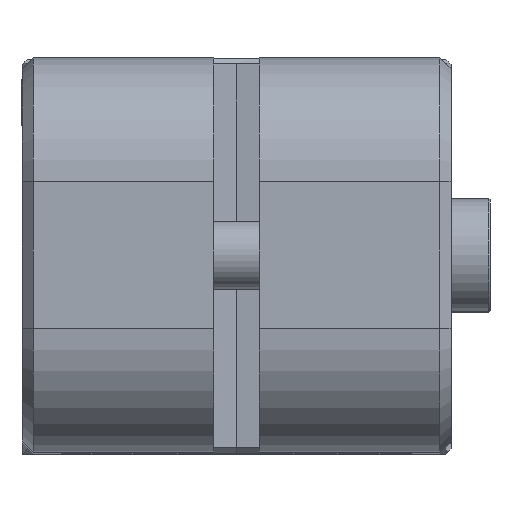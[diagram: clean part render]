
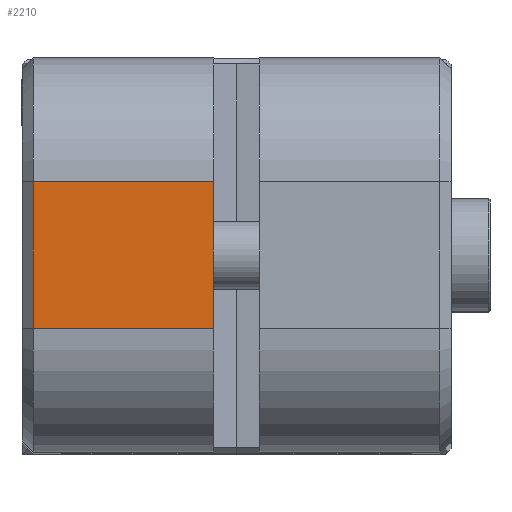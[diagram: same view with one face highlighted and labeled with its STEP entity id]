
A CAD part, top view. The second image highlights one B-rep face of the part: STEP entity #2210.
In plain terms, the highlighted planar face has unit normal (0, 0, 1) as drawn and (1, 0, 0) by its records, which use the part's own axes.
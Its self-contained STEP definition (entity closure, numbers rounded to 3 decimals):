
#484 = CARTESIAN_POINT ( 'NONE',  ( 71.918, 8.764, -37.971 ) ) ;
#570 = AXIS2_PLACEMENT_3D ( 'NONE', #1217, #4479, #8642 ) ;
#1217 = CARTESIAN_POINT ( 'NONE',  ( 71.918, 8.764, -37.971 ) ) ;
#1311 = CARTESIAN_POINT ( 'NONE',  ( 71.918, 16.764, -37.971 ) ) ;
#1511 = CARTESIAN_POINT ( 'NONE',  ( 71.918, 8.764, -31.471 ) ) ;
#1586 = VERTEX_POINT ( 'NONE', #3878 ) ;
#2035 = DIRECTION ( 'NONE',  ( 0., 0., 1. ) ) ;
#2210 = ADVANCED_FACE ( 'NONE', ( #10504 ), #2870, .T. ) ;
#2856 = ORIENTED_EDGE ( 'NONE', *, *, #7333, .T. ) ;
#2870 = PLANE ( 'NONE',  #570 ) ;
#3052 = EDGE_CURVE ( 'NONE', #9318, #7766, #4837, .T. ) ;
#3235 = ORIENTED_EDGE ( 'NONE', *, *, #6973, .T. ) ;
#3878 = CARTESIAN_POINT ( 'NONE',  ( 71.918, 24.764, -24.971 ) ) ;
#4009 = VECTOR ( 'NONE', #6062, 1000. ) ;
#4479 = DIRECTION ( 'NONE',  ( 1., 0., 0. ) ) ;
#4837 = LINE ( 'NONE', #1311, #8840 ) ;
#4875 = DIRECTION ( 'NONE',  ( 0., 0., -1. ) ) ;
#5048 = EDGE_LOOP ( 'NONE', ( #8899, #8583, #3235, #2856 ) ) ;
#6062 = DIRECTION ( 'NONE',  ( 0., -1., 0. ) ) ;
#6253 = VECTOR ( 'NONE', #4875, 1000. ) ;
#6802 = EDGE_CURVE ( 'NONE', #7766, #1586, #9715, .T. ) ;
#6845 = VERTEX_POINT ( 'NONE', #8328 ) ;
#6973 = EDGE_CURVE ( 'NONE', #1586, #6845, #9385, .T. ) ;
#7180 = DIRECTION ( 'NONE',  ( 0., 1., 0. ) ) ;
#7333 = EDGE_CURVE ( 'NONE', #6845, #9318, #9094, .T. ) ;
#7564 = VECTOR ( 'NONE', #2035, 1000. ) ;
#7766 = VERTEX_POINT ( 'NONE', #10185 ) ;
#8328 = CARTESIAN_POINT ( 'NONE',  ( 71.918, 8.764, -24.971 ) ) ;
#8583 = ORIENTED_EDGE ( 'NONE', *, *, #6802, .T. ) ;
#8642 = DIRECTION ( 'NONE',  ( 0., 1., 0. ) ) ;
#8662 = CARTESIAN_POINT ( 'NONE',  ( 71.918, 16.764, -24.971 ) ) ;
#8840 = VECTOR ( 'NONE', #7180, 1000. ) ;
#8899 = ORIENTED_EDGE ( 'NONE', *, *, #3052, .T. ) ;
#9094 = LINE ( 'NONE', #1511, #6253 ) ;
#9318 = VERTEX_POINT ( 'NONE', #484 ) ;
#9385 = LINE ( 'NONE', #8662, #4009 ) ;
#9611 = CARTESIAN_POINT ( 'NONE',  ( 71.918, 24.764, -31.471 ) ) ;
#9715 = LINE ( 'NONE', #9611, #7564 ) ;
#10185 = CARTESIAN_POINT ( 'NONE',  ( 71.918, 24.764, -37.971 ) ) ;
#10504 = FACE_OUTER_BOUND ( 'NONE', #5048, .T. ) ;
